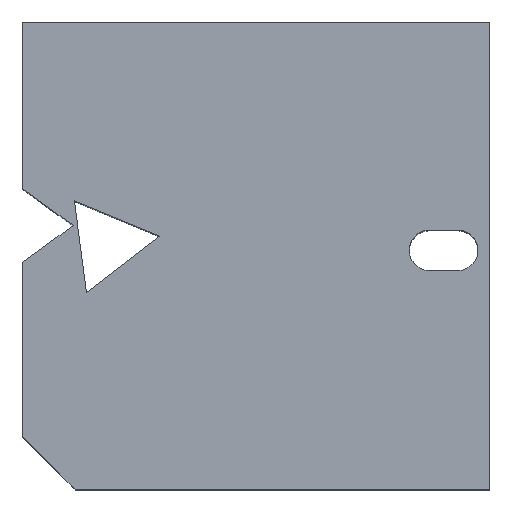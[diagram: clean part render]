
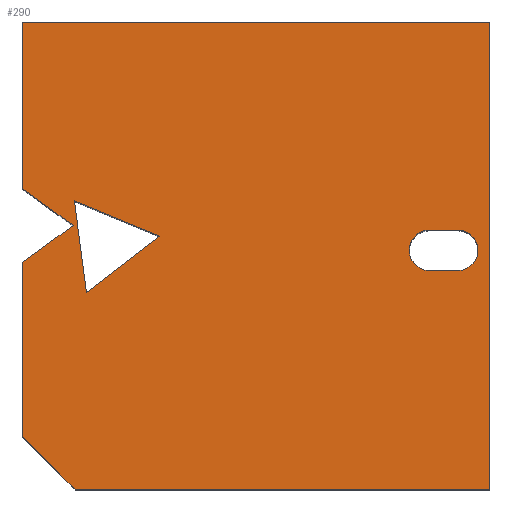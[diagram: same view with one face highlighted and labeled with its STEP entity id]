
A CAD part, top view. The second image highlights one B-rep face of the part: STEP entity #290.
In plain terms, the highlighted planar face has unit normal (0, 0, 1).
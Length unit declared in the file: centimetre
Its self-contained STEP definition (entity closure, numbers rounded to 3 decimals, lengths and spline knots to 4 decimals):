
#27 = VERTEX_POINT ( 'NONE', #169 ) ;
#40 = EDGE_CURVE ( 'NONE', #88, #874, #483, .T. ) ;
#64 = EDGE_CURVE ( 'NONE', #1283, #506, #675, .T. ) ;
#88 = VERTEX_POINT ( 'NONE', #2056 ) ;
#107 = EDGE_CURVE ( 'NONE', #502, #1283, #994, .T. ) ;
#111 = CARTESIAN_POINT ( 'NONE',  ( 931.6011, 554.7754, 1000. ) ) ;
#148 = CARTESIAN_POINT ( 'NONE',  ( 111.139, 617.2925, 1000. ) ) ;
#149 = VECTOR ( 'NONE', #2006, 100. ) ;
#153 = EDGE_CURVE ( 'NONE', #1668, #855, #1028, .T. ) ;
#169 = CARTESIAN_POINT ( 'NONE',  ( 871.6216, 554.7754, 1000. ) ) ;
#192 = ORIENTED_EDGE ( 'NONE', *, *, #709, .T. ) ;
#198 = LINE ( 'NONE', #536, #1269 ) ;
#202 = VERTEX_POINT ( 'NONE', #1375 ) ;
#216 = ORIENTED_EDGE ( 'NONE', *, *, #473, .T. ) ;
#231 = CARTESIAN_POINT ( 'NONE',  ( 1000., 0., 1000. ) ) ;
#290 = ADVANCED_FACE ( 'NONE', ( #960, #513, #787 ), #856, .T. ) ;
#293 = VERTEX_POINT ( 'NONE', #111 ) ;
#308 = VECTOR ( 'NONE', #497, 100. ) ;
#331 = VERTEX_POINT ( 'NONE', #1221 ) ;
#345 = DIRECTION ( 'NONE',  ( 0.707, -0.707, 0. ) ) ;
#404 = EDGE_CURVE ( 'NONE', #874, #499, #198, .T. ) ;
#415 = CARTESIAN_POINT ( 'NONE',  ( 871.6216, 511.224, 1000. ) ) ;
#419 = ORIENTED_EDGE ( 'NONE', *, *, #723, .T. ) ;
#420 = CARTESIAN_POINT ( 'NONE',  ( 0., 643.531, 1000. ) ) ;
#424 = CIRCLE ( 'NONE', #995, 43.5514 ) ;
#447 = CARTESIAN_POINT ( 'NONE',  ( 137.2592, 420.6636, 1000. ) ) ;
#462 = LINE ( 'NONE', #2047, #308 ) ;
#473 = EDGE_CURVE ( 'NONE', #331, #499, #901, .T. ) ;
#474 = EDGE_LOOP ( 'NONE', ( #192, #563, #419, #2035, #1628 ) ) ;
#483 = LINE ( 'NONE', #1018, #592 ) ;
#492 = EDGE_CURVE ( 'NONE', #1356, #1668, #867, .T. ) ;
#497 = DIRECTION ( 'NONE',  ( -0.924, 0.382, 0. ) ) ;
#499 = VERTEX_POINT ( 'NONE', #420 ) ;
#502 = VERTEX_POINT ( 'NONE', #752 ) ;
#503 = DIRECTION ( 'NONE',  ( 0., 0., 1. ) ) ;
#506 = VERTEX_POINT ( 'NONE', #1834 ) ;
#513 = FACE_BOUND ( 'NONE', #1739, .T. ) ;
#525 = CARTESIAN_POINT ( 'NONE',  ( 1000., 1000., 1000. ) ) ;
#536 = CARTESIAN_POINT ( 'NONE',  ( 108.7824, 564.5336, 1000. ) ) ;
#538 = CARTESIAN_POINT ( 'NONE',  ( 828.0702, 511.224, 1000. ) ) ;
#563 = ORIENTED_EDGE ( 'NONE', *, *, #1281, .T. ) ;
#582 = EDGE_CURVE ( 'NONE', #1598, #202, #1046, .T. ) ;
#592 = VECTOR ( 'NONE', #2045, 100. ) ;
#609 = ORIENTED_EDGE ( 'NONE', *, *, #107, .F. ) ;
#675 = LINE ( 'NONE', #1567, #1864 ) ;
#699 = VECTOR ( 'NONE', #1918, 100. ) ;
#709 = EDGE_CURVE ( 'NONE', #202, #1570, #1187, .T. ) ;
#723 = EDGE_CURVE ( 'NONE', #27, #293, #1989, .T. ) ;
#743 = CIRCLE ( 'NONE', #2121, 43.5514 ) ;
#752 = CARTESIAN_POINT ( 'NONE',  ( 111.139, 617.2925, 1000. ) ) ;
#787 = FACE_OUTER_BOUND ( 'NONE', #1249, .T. ) ;
#815 = EDGE_CURVE ( 'NONE', #855, #331, #1313, .T. ) ;
#823 = AXIS2_PLACEMENT_3D ( 'NONE', #415, #1092, #1270 ) ;
#825 = DIRECTION ( 'NONE',  ( 0.132, -0.991, 0. ) ) ;
#827 = CARTESIAN_POINT ( 'NONE',  ( 108.7824, 564.5336, 1000. ) ) ;
#828 = ORIENTED_EDGE ( 'NONE', *, *, #492, .T. ) ;
#832 = ORIENTED_EDGE ( 'NONE', *, *, #64, .F. ) ;
#852 = EDGE_CURVE ( 'NONE', #506, #502, #462, .T. ) ;
#855 = VERTEX_POINT ( 'NONE', #1181 ) ;
#856 = PLANE ( 'NONE',  #1502 ) ;
#867 = LINE ( 'NONE', #910, #699 ) ;
#874 = VERTEX_POINT ( 'NONE', #827 ) ;
#901 = LINE ( 'NONE', #1039, #1427 ) ;
#910 = CARTESIAN_POINT ( 'NONE',  ( 0., 0., 1000. ) ) ;
#945 = DIRECTION ( 'NONE',  ( 1., 0., 0. ) ) ;
#960 = FACE_BOUND ( 'NONE', #474, .T. ) ;
#991 = ORIENTED_EDGE ( 'NONE', *, *, #1473, .T. ) ;
#992 = VECTOR ( 'NONE', #825, 100. ) ;
#994 = LINE ( 'NONE', #148, #992 ) ;
#995 = AXIS2_PLACEMENT_3D ( 'NONE', #2100, #1232, #1929 ) ;
#1008 = DIRECTION ( 'NONE',  ( 0.793, 0.61, 0. ) ) ;
#1018 = CARTESIAN_POINT ( 'NONE',  ( 0., 485.5363, 1000. ) ) ;
#1028 = LINE ( 'NONE', #525, #1309 ) ;
#1030 = VECTOR ( 'NONE', #345, 100. ) ;
#1039 = CARTESIAN_POINT ( 'NONE',  ( 0., 1000., 1000. ) ) ;
#1046 = LINE ( 'NONE', #1550, #1580 ) ;
#1055 = DIRECTION ( 'NONE',  ( -1., 0., 0. ) ) ;
#1057 = ORIENTED_EDGE ( 'NONE', *, *, #40, .F. ) ;
#1079 = EDGE_CURVE ( 'NONE', #88, #1766, #1452, .T. ) ;
#1092 = DIRECTION ( 'NONE',  ( 0., 0., -1. ) ) ;
#1181 = CARTESIAN_POINT ( 'NONE',  ( 1000., 1000., 1000. ) ) ;
#1187 = CIRCLE ( 'NONE', #823, 43.5514 ) ;
#1188 = LINE ( 'NONE', #2236, #1030 ) ;
#1212 = DIRECTION ( 'NONE',  ( 0., 1., 0. ) ) ;
#1221 = CARTESIAN_POINT ( 'NONE',  ( 0., 1000., 1000. ) ) ;
#1232 = DIRECTION ( 'NONE',  ( 0., 0., -1. ) ) ;
#1249 = EDGE_LOOP ( 'NONE', ( #1732, #1057, #2052, #991, #828, #1433, #2212, #216 ) ) ;
#1269 = VECTOR ( 'NONE', #1424, 100. ) ;
#1270 = DIRECTION ( 'NONE',  ( 1., 0., 0. ) ) ;
#1281 = EDGE_CURVE ( 'NONE', #1570, #27, #743, .T. ) ;
#1283 = VERTEX_POINT ( 'NONE', #447 ) ;
#1309 = VECTOR ( 'NONE', #1212, 100. ) ;
#1313 = LINE ( 'NONE', #2016, #2191 ) ;
#1345 = DIRECTION ( 'NONE',  ( -1., 0., 0. ) ) ;
#1356 = VERTEX_POINT ( 'NONE', #2165 ) ;
#1375 = CARTESIAN_POINT ( 'NONE',  ( 871.6216, 467.6727, 1000. ) ) ;
#1417 = CARTESIAN_POINT ( 'NONE',  ( 931.6011, 554.7754, 1000. ) ) ;
#1424 = DIRECTION ( 'NONE',  ( -0.809, 0.588, 0. ) ) ;
#1427 = VECTOR ( 'NONE', #1952, 100. ) ;
#1433 = ORIENTED_EDGE ( 'NONE', *, *, #153, .T. ) ;
#1439 = ORIENTED_EDGE ( 'NONE', *, *, #852, .F. ) ;
#1452 = LINE ( 'NONE', #1604, #1865 ) ;
#1473 = EDGE_CURVE ( 'NONE', #1766, #1356, #1188, .T. ) ;
#1477 = DIRECTION ( 'NONE',  ( 0., 0., -1. ) ) ;
#1502 = AXIS2_PLACEMENT_3D ( 'NONE', #1540, #503, #1654 ) ;
#1540 = CARTESIAN_POINT ( 'NONE',  ( 0., 0., 1000. ) ) ;
#1550 = CARTESIAN_POINT ( 'NONE',  ( 871.6216, 467.6727, 1000. ) ) ;
#1567 = CARTESIAN_POINT ( 'NONE',  ( 137.2592, 420.6636, 1000. ) ) ;
#1570 = VERTEX_POINT ( 'NONE', #538 ) ;
#1580 = VECTOR ( 'NONE', #1055, 100. ) ;
#1598 = VERTEX_POINT ( 'NONE', #1737 ) ;
#1604 = CARTESIAN_POINT ( 'NONE',  ( 0., 1000., 1000. ) ) ;
#1628 = ORIENTED_EDGE ( 'NONE', *, *, #582, .T. ) ;
#1654 = DIRECTION ( 'NONE',  ( 1., 0., 0. ) ) ;
#1664 = CARTESIAN_POINT ( 'NONE',  ( 0., 112.7486, 1000. ) ) ;
#1668 = VERTEX_POINT ( 'NONE', #231 ) ;
#1693 = EDGE_CURVE ( 'NONE', #293, #1598, #424, .T. ) ;
#1732 = ORIENTED_EDGE ( 'NONE', *, *, #404, .F. ) ;
#1737 = CARTESIAN_POINT ( 'NONE',  ( 931.6011, 467.6727, 1000. ) ) ;
#1739 = EDGE_LOOP ( 'NONE', ( #832, #609, #1439 ) ) ;
#1766 = VERTEX_POINT ( 'NONE', #1664 ) ;
#1776 = DIRECTION ( 'NONE',  ( 0., -1., 0. ) ) ;
#1834 = CARTESIAN_POINT ( 'NONE',  ( 294.4847, 541.5989, 1000. ) ) ;
#1864 = VECTOR ( 'NONE', #1008, 100. ) ;
#1865 = VECTOR ( 'NONE', #1776, 100. ) ;
#1918 = DIRECTION ( 'NONE',  ( 1., 0., 0. ) ) ;
#1929 = DIRECTION ( 'NONE',  ( 1., 0., 0. ) ) ;
#1952 = DIRECTION ( 'NONE',  ( 0., -1., 0. ) ) ;
#1989 = LINE ( 'NONE', #1417, #149 ) ;
#2006 = DIRECTION ( 'NONE',  ( 1., 0., 0. ) ) ;
#2014 = CARTESIAN_POINT ( 'NONE',  ( 871.6216, 511.224, 1000. ) ) ;
#2016 = CARTESIAN_POINT ( 'NONE',  ( 0., 1000., 1000. ) ) ;
#2035 = ORIENTED_EDGE ( 'NONE', *, *, #1693, .T. ) ;
#2045 = DIRECTION ( 'NONE',  ( 0.809, 0.588, 0. ) ) ;
#2047 = CARTESIAN_POINT ( 'NONE',  ( 294.4847, 541.5989, 1000. ) ) ;
#2052 = ORIENTED_EDGE ( 'NONE', *, *, #1079, .T. ) ;
#2056 = CARTESIAN_POINT ( 'NONE',  ( 0., 485.5363, 1000. ) ) ;
#2100 = CARTESIAN_POINT ( 'NONE',  ( 931.6011, 511.224, 1000. ) ) ;
#2121 = AXIS2_PLACEMENT_3D ( 'NONE', #2014, #1477, #945 ) ;
#2165 = CARTESIAN_POINT ( 'NONE',  ( 112.7486, 0., 1000. ) ) ;
#2191 = VECTOR ( 'NONE', #1345, 100. ) ;
#2212 = ORIENTED_EDGE ( 'NONE', *, *, #815, .T. ) ;
#2236 = CARTESIAN_POINT ( 'NONE',  ( 56.3743, 56.3743, 1000. ) ) ;
